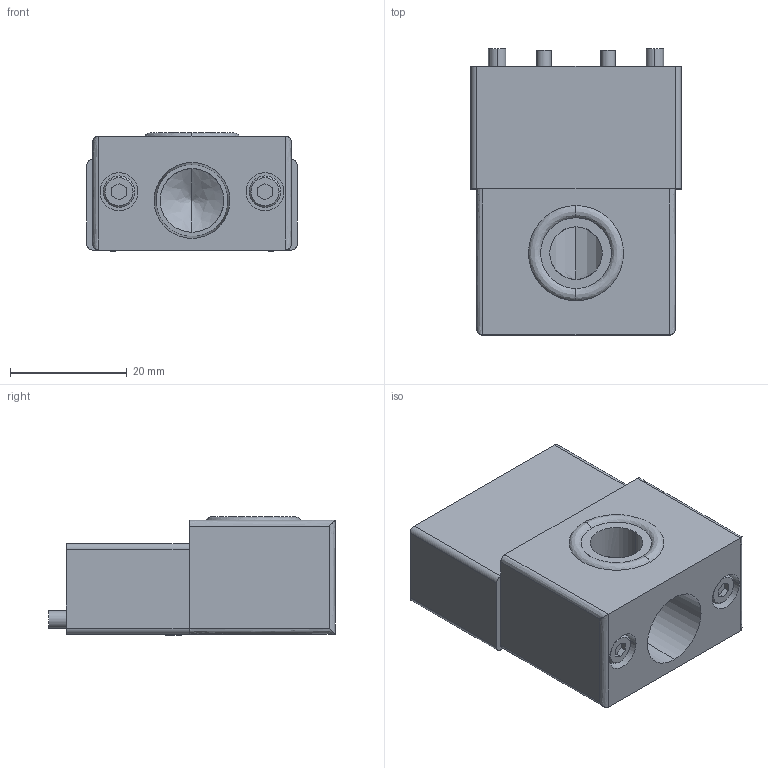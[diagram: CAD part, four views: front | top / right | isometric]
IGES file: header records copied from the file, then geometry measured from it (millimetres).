
Start section: 3D InterOp IGES (v. 2022 1.0.0), Spatial Corp. Copyright (c) 1999-2020.
Global section: file name: KHG-12HS-EP81_ver1.igs; native system: Spatial Corp.; preprocessor: 3D InterOp GENERIC/IGES 3.0; author: Noname; organization: Noname; date: 20260518.095226; units: millimetre
Bounding box: 36 x 49 x 20.3 mm (x, y, z)
Surface area: 9311.3 mm2 (no closed solid volume)
Topology: 0 solids, 0 shells, 154 faces, 696 edges, 694 vertices
Faces by surface type: revolution 78, extrusion 76
